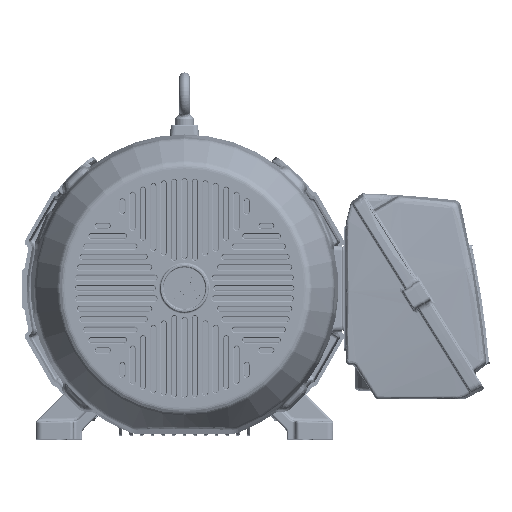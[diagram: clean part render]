
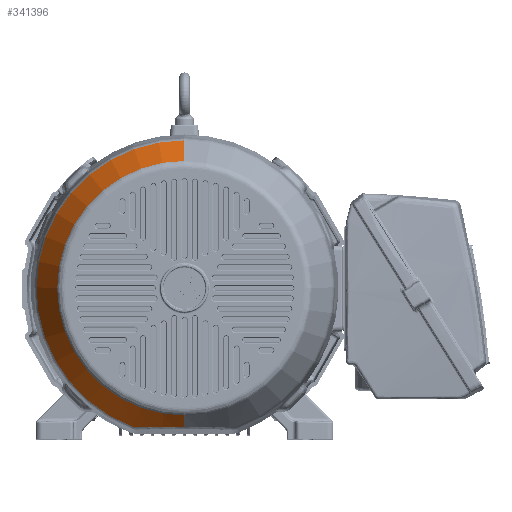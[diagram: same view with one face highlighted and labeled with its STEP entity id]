
A CAD part, top view. The second image highlights one B-rep face of the part: STEP entity #341396.
In plain terms, the highlighted conical face has half-angle 30 degrees and reference radius 255.525 mm.
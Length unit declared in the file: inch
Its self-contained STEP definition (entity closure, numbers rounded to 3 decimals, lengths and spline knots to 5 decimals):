
#333122=CARTESIAN_POINT('',(3.81286,-10.11872,
-5.82586));
#333123=CARTESIAN_POINT('',(3.65687,-10.1189,
-5.92084));
#333124=CARTESIAN_POINT('',(3.34567,-10.11941,
-6.09948));
#333125=CARTESIAN_POINT('',(2.90008,-10.12043,
-6.32573));
#333126=CARTESIAN_POINT('',(2.4157,-10.1217,
-6.53785));
#333127=CARTESIAN_POINT('',(1.90238,-10.12309,
-6.72194));
#333128=CARTESIAN_POINT('',(1.34925,-10.12442,
-6.87322));
#333129=CARTESIAN_POINT('',(0.73206,-10.12551,
-6.98374));
#333130=CARTESIAN_POINT('',(0.25443,-10.12585,
-7.01647));
#333131=CARTESIAN_POINT('',(0.,-10.12585,
-7.01647));
#333133=DIRECTION('',(0.,0.5,0.866));
#333134=VECTOR('',#333133,3.01277);
#333135=CARTESIAN_POINT('',(0.,9.30687,-8.435));
#333136=LINE('',#333135,#333134);
#333137=CARTESIAN_POINT('',(0.,0.,-8.435));
#333138=DIRECTION('',(0.,0.,-1.));
#333139=DIRECTION('',(0.,1.,0.));
#333140=AXIS2_PLACEMENT_3D('',#333137,#333138,#333139);
#333142=DIRECTION('',(0.,-0.5,0.866));
#333143=VECTOR('',#333142,1.63798);
#333144=CARTESIAN_POINT('',(0.,-9.30687,-8.435));
#333145=LINE('',#333144,#333143);
#333681=CARTESIAN_POINT('',(0.,0.,-5.82586));
#333682=DIRECTION('',(0.,0.,-1.));
#333683=DIRECTION('',(0.,1.,0.));
#333684=AXIS2_PLACEMENT_3D('',#333681,#333682,#333683);
#333696=CARTESIAN_POINT('',(0.,-10.12585,
-7.01647));
#339199=CARTESIAN_POINT('',(0.,9.30687,-8.435));
#339201=VERTEX_POINT('',#339199);
#339202=CARTESIAN_POINT('',(0.,10.81325,-5.82586));
#339203=VERTEX_POINT('',#339202);
#339205=CARTESIAN_POINT('',(0.,-9.30687,-8.435));
#339207=VERTEX_POINT('',#339205);
#339613=VERTEX_POINT('',#333696);
#339615=VERTEX_POINT('',#333122);
#341380=CARTESIAN_POINT('',(0.,0.,-7.13043));
#341381=DIRECTION('',(0.,0.,1.));
#341382=DIRECTION('',(0.,1.,0.));
#341383=AXIS2_PLACEMENT_3D('',#341380,#341381,#341382);
#341384=CONICAL_SURFACE('',#341383,10.06006,30.);
#341386=ORIENTED_EDGE('',*,*,#341385,.F.);
#341388=ORIENTED_EDGE('',*,*,#341387,.F.);
#341390=ORIENTED_EDGE('',*,*,#341389,.F.);
#341391=ORIENTED_EDGE('',*,*,#341375,.T.);
#341393=ORIENTED_EDGE('',*,*,#341392,.T.);
#341394=EDGE_LOOP('',(#341386,#341388,#341390,#341391,#341393));
#341395=FACE_OUTER_BOUND('',#341394,.F.);
#341396=ADVANCED_FACE('',(#341395),#341384,.T.);
#333132=B_SPLINE_CURVE_WITH_KNOTS('',3,(#333122,#333123,#333124,#333125,#333126,
#333127,#333128,#333129,#333130,#333131),.UNSPECIFIED.,.F.,.F.,(4,1,1,1,1,1,1,
4),(0.,0.14286,0.28571,0.42857,
0.57143,0.71429,0.85714,1.),.UNSPECIFIED.);
#333141=CIRCLE('',#333140,9.30687);
#333685=CIRCLE('',#333684,10.81325);
#341375=EDGE_CURVE('',#339201,#339207,#333141,.T.);
#341385=EDGE_CURVE('',#339615,#339613,#333132,.T.);
#341387=EDGE_CURVE('',#339203,#339615,#333685,.T.);
#341389=EDGE_CURVE('',#339201,#339203,#333136,.T.);
#341392=EDGE_CURVE('',#339207,#339613,#333145,.T.);
